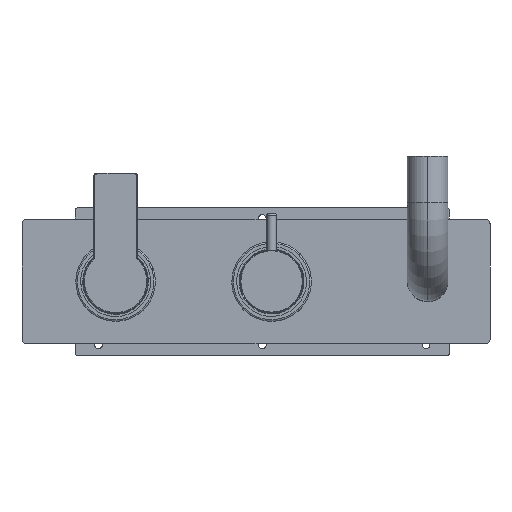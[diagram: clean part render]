
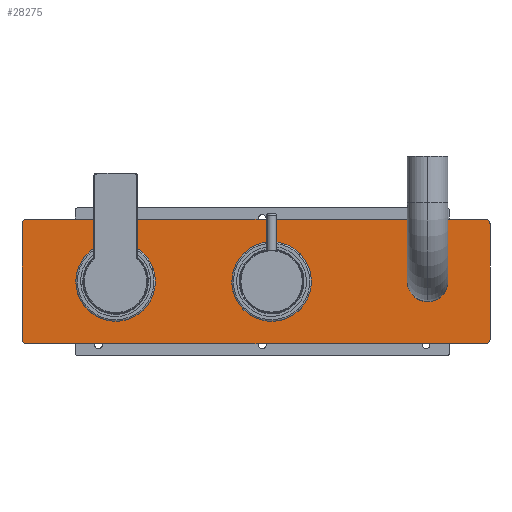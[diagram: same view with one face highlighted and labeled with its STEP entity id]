
A CAD part, top view. The second image highlights one B-rep face of the part: STEP entity #28275.
In plain terms, the highlighted planar face has unit normal (0, 0, 1).
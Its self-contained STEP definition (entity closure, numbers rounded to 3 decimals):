
#62 = AXIS2_PLACEMENT_3D ( 'NONE', #19172, #7662, #21716 ) ;
#470 = CARTESIAN_POINT ( 'NONE',  ( -147., -40., 2. ) ) ;
#758 = EDGE_LOOP ( 'NONE', ( #26231, #26333 ) ) ;
#783 = VERTEX_POINT ( 'NONE', #9516 ) ;
#978 = EDGE_CURVE ( 'NONE', #31279, #20449, #23166, .T. ) ;
#1198 = CIRCLE ( 'NONE', #26745, 24. ) ;
#1286 = VECTOR ( 'NONE', #1824, 1000. ) ;
#1824 = DIRECTION ( 'NONE',  ( 0., -1., 0. ) ) ;
#1870 = EDGE_CURVE ( 'NONE', #38228, #27474, #1198, .T. ) ;
#2101 = CARTESIAN_POINT ( 'NONE',  ( -121.5, 0., 2. ) ) ;
#2114 = CARTESIAN_POINT ( 'NONE',  ( 150., -40., 2. ) ) ;
#2282 = DIRECTION ( 'NONE',  ( 1., 0., 0. ) ) ;
#2400 = LINE ( 'NONE', #25614, #1286 ) ;
#2522 = CARTESIAN_POINT ( 'NONE',  ( -147., -37., 2. ) ) ;
#2532 = VERTEX_POINT ( 'NONE', #32739 ) ;
#2877 = VERTEX_POINT ( 'NONE', #470 ) ;
#3176 = ORIENTED_EDGE ( 'NONE', *, *, #13508, .T. ) ;
#4113 = CARTESIAN_POINT ( 'NONE',  ( -98.5, 0., 2. ) ) ;
#4119 = VERTEX_POINT ( 'NONE', #36515 ) ;
#4130 = EDGE_CURVE ( 'NONE', #20449, #35190, #34840, .T. ) ;
#4370 = EDGE_CURVE ( 'NONE', #17026, #4119, #29828, .T. ) ;
#4406 = CARTESIAN_POINT ( 'NONE',  ( 150., 37., 2. ) ) ;
#4615 = DIRECTION ( 'NONE',  ( 0., 0., 1. ) ) ;
#4639 = CARTESIAN_POINT ( 'NONE',  ( -147., 37., 2. ) ) ;
#4809 = CARTESIAN_POINT ( 'NONE',  ( 147., -37., 2. ) ) ;
#4901 = AXIS2_PLACEMENT_3D ( 'NONE', #4809, #4615, #25686 ) ;
#5465 = VECTOR ( 'NONE', #7102, 1000. ) ;
#5958 = ORIENTED_EDGE ( 'NONE', *, *, #31292, .F. ) ;
#6753 = VECTOR ( 'NONE', #30327, 1000. ) ;
#6824 = VERTEX_POINT ( 'NONE', #4113 ) ;
#7102 = DIRECTION ( 'NONE',  ( 1., 0., 0. ) ) ;
#7340 = ORIENTED_EDGE ( 'NONE', *, *, #27570, .T. ) ;
#7468 = PLANE ( 'NONE',  #62 ) ;
#7662 = DIRECTION ( 'NONE',  ( 0., 0., 1. ) ) ;
#7749 = DIRECTION ( 'NONE',  ( 0., 0., 1. ) ) ;
#7998 = ORIENTED_EDGE ( 'NONE', *, *, #33497, .F. ) ;
#9449 = EDGE_LOOP ( 'NONE', ( #34901, #14582, #31922, #3176, #14269, #33112, #10576, #7340 ) ) ;
#9516 = CARTESIAN_POINT ( 'NONE',  ( -147., 40., 2. ) ) ;
#10081 = DIRECTION ( 'NONE',  ( 0., 0., 1. ) ) ;
#10195 = FACE_BOUND ( 'NONE', #11275, .T. ) ;
#10287 = AXIS2_PLACEMENT_3D ( 'NONE', #4639, #10081, #30787 ) ;
#10394 = FACE_BOUND ( 'NONE', #758, .T. ) ;
#10576 = ORIENTED_EDGE ( 'NONE', *, *, #22156, .T. ) ;
#11149 = ORIENTED_EDGE ( 'NONE', *, *, #1870, .F. ) ;
#11275 = EDGE_LOOP ( 'NONE', ( #5958, #11149 ) ) ;
#11281 = CIRCLE ( 'NONE', #31886, 24. ) ;
#12047 = EDGE_CURVE ( 'NONE', #2877, #2532, #29989, .T. ) ;
#13060 = VERTEX_POINT ( 'NONE', #28854 ) ;
#13508 = EDGE_CURVE ( 'NONE', #2532, #31279, #20498, .T. ) ;
#13902 = CARTESIAN_POINT ( 'NONE',  ( -10., 0., 2. ) ) ;
#13957 = CARTESIAN_POINT ( 'NONE',  ( -10., 0., 2. ) ) ;
#14068 = AXIS2_PLACEMENT_3D ( 'NONE', #16714, #37624, #25306 ) ;
#14224 = CARTESIAN_POINT ( 'NONE',  ( -150., -37., 2. ) ) ;
#14269 = ORIENTED_EDGE ( 'NONE', *, *, #978, .T. ) ;
#14380 = DIRECTION ( 'NONE',  ( 0., 1., 0. ) ) ;
#14582 = ORIENTED_EDGE ( 'NONE', *, *, #33191, .T. ) ;
#16217 = VECTOR ( 'NONE', #14380, 1000. ) ;
#16713 = DIRECTION ( 'NONE',  ( 1., 0., 0. ) ) ;
#16714 = CARTESIAN_POINT ( 'NONE',  ( -110., 0., 2. ) ) ;
#16945 = CARTESIAN_POINT ( 'NONE',  ( 66., 0., 2. ) ) ;
#17026 = VERTEX_POINT ( 'NONE', #16945 ) ;
#17101 = AXIS2_PLACEMENT_3D ( 'NONE', #2522, #17521, #38063 ) ;
#17284 = CARTESIAN_POINT ( 'NONE',  ( -110., 0., 2. ) ) ;
#17350 = AXIS2_PLACEMENT_3D ( 'NONE', #17284, #7749, #16713 ) ;
#17521 = DIRECTION ( 'NONE',  ( 0., 0., 1. ) ) ;
#19172 = CARTESIAN_POINT ( 'NONE',  ( 0., 0., 2. ) ) ;
#20400 = DIRECTION ( 'NONE',  ( 0., 0., 1. ) ) ;
#20449 = VERTEX_POINT ( 'NONE', #4406 ) ;
#20498 = CIRCLE ( 'NONE', #4901, 3. ) ;
#20673 = DIRECTION ( 'NONE',  ( 0., 0., 1. ) ) ;
#21716 = DIRECTION ( 'NONE',  ( 1., 0., 0. ) ) ;
#22156 = EDGE_CURVE ( 'NONE', #35190, #783, #26832, .T. ) ;
#23166 = LINE ( 'NONE', #2114, #16217 ) ;
#23415 = DIRECTION ( 'NONE',  ( 0., 0., 1. ) ) ;
#24061 = VERTEX_POINT ( 'NONE', #14224 ) ;
#24124 = CARTESIAN_POINT ( 'NONE',  ( 150., -40., 2. ) ) ;
#24221 = AXIS2_PLACEMENT_3D ( 'NONE', #31764, #29014, #2282 ) ;
#25306 = DIRECTION ( 'NONE',  ( 1., 0., 0. ) ) ;
#25614 = CARTESIAN_POINT ( 'NONE',  ( -150., -40., 2. ) ) ;
#25624 = DIRECTION ( 'NONE',  ( 1., 0., 0. ) ) ;
#25686 = DIRECTION ( 'NONE',  ( 1., 0., 0. ) ) ;
#26231 = ORIENTED_EDGE ( 'NONE', *, *, #29042, .F. ) ;
#26333 = ORIENTED_EDGE ( 'NONE', *, *, #4370, .F. ) ;
#26501 = ORIENTED_EDGE ( 'NONE', *, *, #36028, .F. ) ;
#26745 = AXIS2_PLACEMENT_3D ( 'NONE', #13902, #20673, #25624 ) ;
#26832 = LINE ( 'NONE', #36199, #6753 ) ;
#27136 = CIRCLE ( 'NONE', #10287, 3. ) ;
#27338 = DIRECTION ( 'NONE',  ( 1., 0., 0. ) ) ;
#27474 = VERTEX_POINT ( 'NONE', #36846 ) ;
#27570 = EDGE_CURVE ( 'NONE', #783, #13060, #27136, .T. ) ;
#28275 = ADVANCED_FACE ( 'NONE', ( #30506, #10394, #10195, #33830 ), #7468, .T. ) ;
#28399 = EDGE_CURVE ( 'NONE', #13060, #24061, #2400, .T. ) ;
#28594 = AXIS2_PLACEMENT_3D ( 'NONE', #30627, #30255, #27338 ) ;
#28803 = CARTESIAN_POINT ( 'NONE',  ( 150., -37., 2. ) ) ;
#28854 = CARTESIAN_POINT ( 'NONE',  ( -150., 37., 2. ) ) ;
#29014 = DIRECTION ( 'NONE',  ( 0., 0., 1. ) ) ;
#29042 = EDGE_CURVE ( 'NONE', #4119, #17026, #11281, .T. ) ;
#29307 = CARTESIAN_POINT ( 'NONE',  ( -34., 0., 2. ) ) ;
#29828 = CIRCLE ( 'NONE', #24221, 24. ) ;
#29989 = LINE ( 'NONE', #24124, #5465 ) ;
#30255 = DIRECTION ( 'NONE',  ( 0., 0., 1. ) ) ;
#30327 = DIRECTION ( 'NONE',  ( -1., 0., 0. ) ) ;
#30506 = FACE_BOUND ( 'NONE', #32251, .T. ) ;
#30627 = CARTESIAN_POINT ( 'NONE',  ( 147., 37., 2. ) ) ;
#30787 = DIRECTION ( 'NONE',  ( 1., 0., 0. ) ) ;
#31279 = VERTEX_POINT ( 'NONE', #28803 ) ;
#31292 = EDGE_CURVE ( 'NONE', #27474, #38228, #35771, .T. ) ;
#31764 = CARTESIAN_POINT ( 'NONE',  ( 90., 0., 2. ) ) ;
#31886 = AXIS2_PLACEMENT_3D ( 'NONE', #38282, #23415, #32782 ) ;
#31922 = ORIENTED_EDGE ( 'NONE', *, *, #12047, .T. ) ;
#32251 = EDGE_LOOP ( 'NONE', ( #26501, #7998 ) ) ;
#32739 = CARTESIAN_POINT ( 'NONE',  ( 147., -40., 2. ) ) ;
#32782 = DIRECTION ( 'NONE',  ( 1., 0., 0. ) ) ;
#33112 = ORIENTED_EDGE ( 'NONE', *, *, #4130, .T. ) ;
#33191 = EDGE_CURVE ( 'NONE', #24061, #2877, #34563, .T. ) ;
#33240 = AXIS2_PLACEMENT_3D ( 'NONE', #13957, #20400, #35628 ) ;
#33497 = EDGE_CURVE ( 'NONE', #34980, #6824, #37072, .T. ) ;
#33830 = FACE_OUTER_BOUND ( 'NONE', #9449, .T. ) ;
#34193 = CIRCLE ( 'NONE', #17350, 11.5 ) ;
#34563 = CIRCLE ( 'NONE', #17101, 3. ) ;
#34840 = CIRCLE ( 'NONE', #28594, 3. ) ;
#34901 = ORIENTED_EDGE ( 'NONE', *, *, #28399, .T. ) ;
#34980 = VERTEX_POINT ( 'NONE', #2101 ) ;
#35190 = VERTEX_POINT ( 'NONE', #36608 ) ;
#35628 = DIRECTION ( 'NONE',  ( 1., 0., 0. ) ) ;
#35771 = CIRCLE ( 'NONE', #33240, 24. ) ;
#36028 = EDGE_CURVE ( 'NONE', #6824, #34980, #34193, .T. ) ;
#36199 = CARTESIAN_POINT ( 'NONE',  ( 150., 40., 2. ) ) ;
#36515 = CARTESIAN_POINT ( 'NONE',  ( 114., 0., 2. ) ) ;
#36608 = CARTESIAN_POINT ( 'NONE',  ( 147., 40., 2. ) ) ;
#36846 = CARTESIAN_POINT ( 'NONE',  ( 14., 0., 2. ) ) ;
#37072 = CIRCLE ( 'NONE', #14068, 11.5 ) ;
#37624 = DIRECTION ( 'NONE',  ( 0., 0., 1. ) ) ;
#38063 = DIRECTION ( 'NONE',  ( 1., 0., 0. ) ) ;
#38228 = VERTEX_POINT ( 'NONE', #29307 ) ;
#38282 = CARTESIAN_POINT ( 'NONE',  ( 90., 0., 2. ) ) ;
